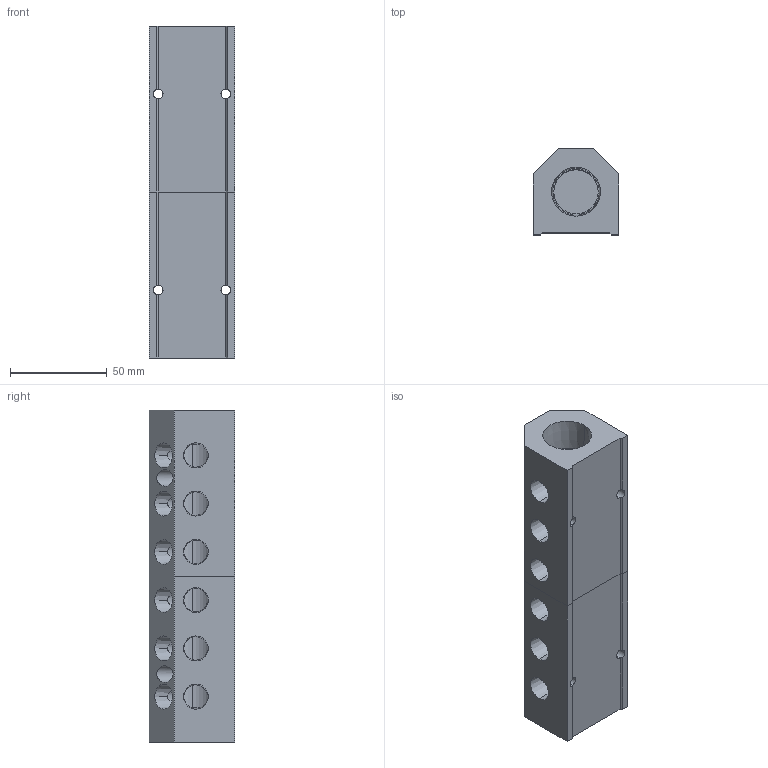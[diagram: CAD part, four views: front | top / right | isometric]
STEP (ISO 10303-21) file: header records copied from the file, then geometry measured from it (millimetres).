
FILE_DESCRIPTION (( 'STEP AP214' ), '1' );
FILE_NAME ('ALM6ABC-N4N12-172RB.step', '2022-02-06T14:18:43', ( '' ), ( '' ), 'SwSTEP 2.0', 'SolidWorks 2020', '' );
FILE_SCHEMA (( 'AUTOMOTIVE_DESIGN' ));
Length unit declared in the file: millimetre
Products named in the file (1): ALM6ABC-N4N12-172RB
Bounding box: 44.5 x 44.5 x 172 mm (x, y, z)
Volume: 204152.4 mm3; surface area: 53276.8 mm2
Topology: 2 solids, 2 shells, 378 faces, 1052 edges, 698 vertices
Faces by surface type: plane 246, bspline 57, cone 47, cylinder 28
Entity records: 20742 total; most frequent: CARTESIAN_POINT 7900, ORIENTED_EDGE 2104, DIRECTION 1550, EDGE_CURVE 1052, VECTOR 722, LINE 722, VERTEX_POINT 698, EDGE_LOOP 442
